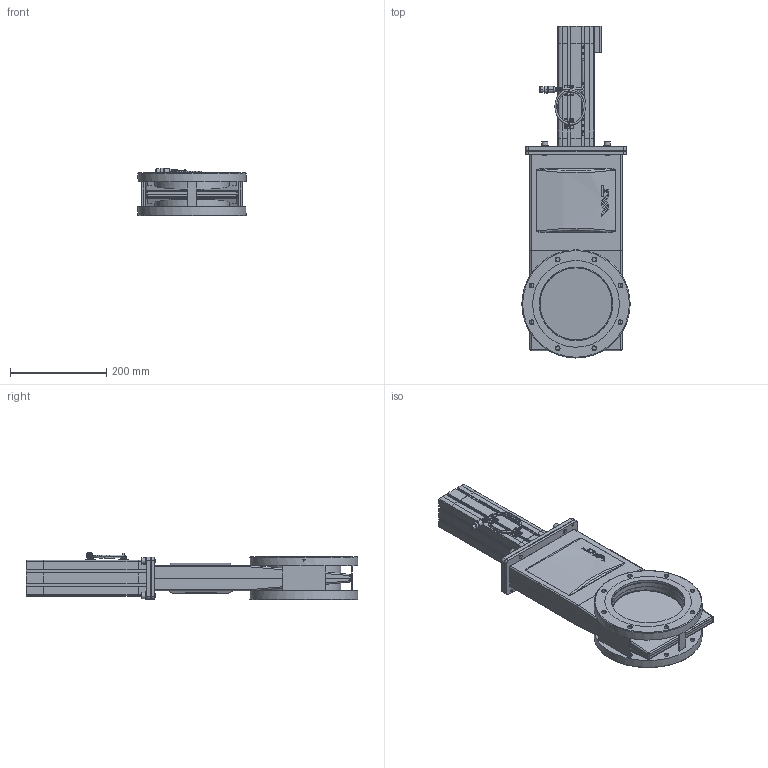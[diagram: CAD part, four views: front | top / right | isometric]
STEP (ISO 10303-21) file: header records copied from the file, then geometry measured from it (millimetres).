
FILE_DESCRIPTION(/* description */ (''),/* implementation_level */ '2;1');
FILE_NAME(/* name */ '1154397882_203.stp',/* time_stamp */ '2021-10-20T08:04:52+02:00',/* author */ (''),/* organization */ (''),/* preprocessor_version */ 'ST-DEVELOPER v16.7',/* originating_system */ 'SIEMENS PLM Software NX 1915',/* authorisation */ '');
FILE_SCHEMA (('AP203_CONFIGURATION_CONTROLLED_3D_DESIGN_OF_MECHANICAL_PARTS_AND_ASSEMBLIES_MIM_LF { 1 0 10303 403 2 1 2}'));
Length unit declared in the file: millimetre
Products named in the file (27): 255736.1_31630ID; 255802.2_31647ID; 255802.2_31646ID; 408099; 998888; 487660; 411636_31688ID; 1041281; 343001.1; 590481; 1033769_31669ID; 255781.4_31624ID; 255792.2; 255781.4_31659ID; 313588.1; 255788.2_31683ID; 255788.2_31650ID; 1085547; 984070; 228777; n-6134-409.1; 255558.4; 1081830_NX-ARRAGMNTDN160, Standard v3 ; 1033770_NX-ARRAGMNTopen ohne SV; 255803.6_NX-ARRAGMNTGrundgehäuse_kpl_geschweisst-unbearbeitet; 313594.3; 1095474
Assembly tree (38 placements, depth 4):
  1095474
    255558.4
    n-6134-409.1  x4
    228777  x4
    313594.3
      255788.2_31650ID
      255788.2_31683ID
      313588.1  x2
      255781.4_31659ID
      255792.2
      255803.6_NX-ARRAGMNTGrundgehäuse_kpl_geschweisst-unbearbeitet
        255802.2_31646ID
        255802.2_31647ID
        255736.1_31630ID
      255781.4_31624ID
    1033770_NX-ARRAGMNTopen ohne SV
      1033769_31669ID
      590481
      343001.1  x2
      1041281
    1081830_NX-ARRAGMNTDN160, Standard v3 
      411636_31688ID
      487660  x2
      998888
      408099  x2
    984070  x2
    1085547  x2
Bounding box: 224.8 x 690.5 x 99.3 mm (x, y, z)
Volume: 2727366.8 mm3; surface area: 936176.2 mm2
Topology: 50 solids, 50 shells, 3195 faces, 8162 edges, 5111 vertices
Faces by surface type: plane 1502, cylinder 847, cone 319, bspline 278, torus 117, sphere 72, extrusion 48, revolution 12
Full cylindrical faces by diameter (mm): 2.46 x2, 2.5 x2, 2.9 x2, 3 x4, 4 x2, 5 x2, 5.1 x2, 5.22 x4, 5.5 x2, 6.66 x4, 6.7 x4, 6.8 x5, 8 x8, 8.4 x5, 8.5 x20, 10.2 x1, 12 x2, 13 x4, 15 x4, 17 x1, 18 x1, 36.345 x1, 150 x3, 150.1 x4, 153.1 x2, 154.1 x2, 154.6 x2, 224.8 x2
Entity records: 103312 total; most frequent: CARTESIAN_POINT 28933, ORIENTED_EDGE 13316, DIRECTION 12549, EDGE_CURVE 6658, AXIS2_PLACEMENT_3D 4386, VERTEX_POINT 4338, VECTOR 3771, LINE 3723
